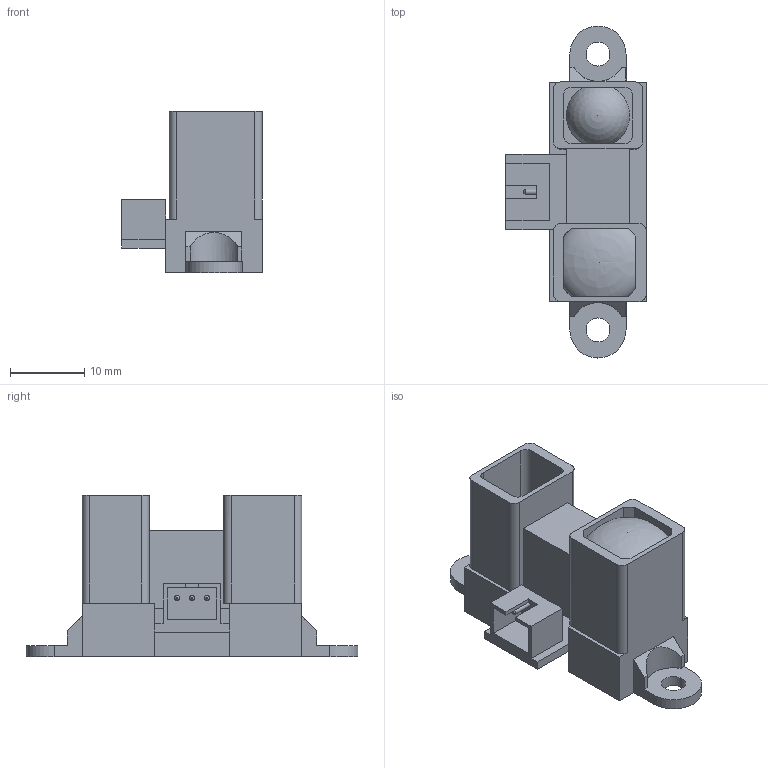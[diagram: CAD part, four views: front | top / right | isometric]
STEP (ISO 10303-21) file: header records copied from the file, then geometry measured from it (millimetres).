
FILE_DESCRIPTION(/* description */ ('Alibre Inc.'),/* implementation_level */ '2;1');
FILE_NAME(/* name */ 'export0',/* time_stamp */ '2013-08-15T09:34:12-06:00',/* author */ (''),/* organization */ (''),/* preprocessor_version */ 'ST-DEVELOPER v14',/* originating_system */ 'Alibre',/* authorisation */ '');
FILE_SCHEMA (('ALIBRE_SCHEMA','CONFIG_CONTROL_DESIGN'));
Length unit declared in the file: centimetre
Products named in the file (1): ID_1
Bounding box: 18.9 x 44.6 x 21.7 mm (x, y, z)
Volume: 4564.9 mm3; surface area: 5158.9 mm2
Topology: 1 solids, 3 shells, 139 faces, 391 edges, 258 vertices
Faces by surface type: plane 103, cylinder 29, cone 3, bspline 2, sphere 1, revolution 1
Full cylindrical faces by diameter (mm): 0.7 x3, 3.2 x2, 4.3 x2
Entity records: 11884 total; most frequent: CARTESIAN_POINT 2078, CONSTRAINTPAIRUV 1127, DIRECTION 965, REFERENCEDEPENDENTUV 805, ORIENTED_EDGE 754, VECTOR 676, REFERENCEPOINTUV 638, LINE 519
